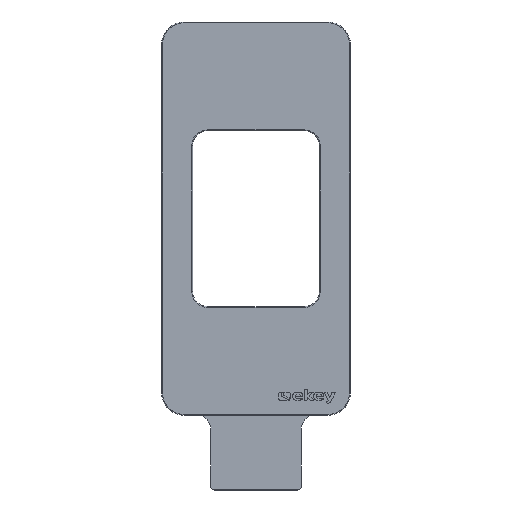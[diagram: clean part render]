
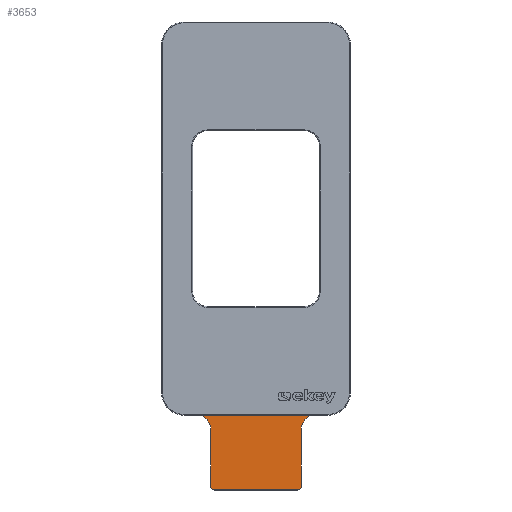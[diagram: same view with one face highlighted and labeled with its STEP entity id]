
A CAD part, top view. The second image highlights one B-rep face of the part: STEP entity #3653.
In plain terms, the highlighted planar face has unit normal (0, 0, 1).
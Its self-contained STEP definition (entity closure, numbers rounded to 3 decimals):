
#291=CIRCLE('',#3840,2.1);
#292=CIRCLE('',#3841,2.1);
#293=CIRCLE('',#3842,2.1);
#294=CIRCLE('',#3843,2.1);
#295=CIRCLE('',#3844,0.5);
#296=CIRCLE('',#3845,2.);
#297=CIRCLE('',#3846,3.);
#298=CIRCLE('',#3847,3.);
#299=CIRCLE('',#3848,3.);
#300=CIRCLE('',#3849,3.);
#301=CIRCLE('',#3850,2.);
#302=CIRCLE('',#3851,0.5);
#1023=ORIENTED_EDGE('',*,*,#1511,.F.);
#1024=ORIENTED_EDGE('',*,*,#1512,.T.);
#1025=ORIENTED_EDGE('',*,*,#1513,.F.);
#1026=ORIENTED_EDGE('',*,*,#1514,.T.);
#1027=ORIENTED_EDGE('',*,*,#1515,.F.);
#1028=ORIENTED_EDGE('',*,*,#1516,.T.);
#1029=ORIENTED_EDGE('',*,*,#1517,.F.);
#1030=ORIENTED_EDGE('',*,*,#1518,.T.);
#1031=ORIENTED_EDGE('',*,*,#1519,.T.);
#1032=ORIENTED_EDGE('',*,*,#1520,.T.);
#1033=ORIENTED_EDGE('',*,*,#1521,.T.);
#1034=ORIENTED_EDGE('',*,*,#1522,.T.);
#1035=ORIENTED_EDGE('',*,*,#1491,.T.);
#1036=ORIENTED_EDGE('',*,*,#1523,.T.);
#1037=ORIENTED_EDGE('',*,*,#1503,.T.);
#1038=ORIENTED_EDGE('',*,*,#1524,.T.);
#1039=ORIENTED_EDGE('',*,*,#1509,.T.);
#1040=ORIENTED_EDGE('',*,*,#1525,.T.);
#1041=ORIENTED_EDGE('',*,*,#1499,.T.);
#1042=ORIENTED_EDGE('',*,*,#1526,.T.);
#1043=ORIENTED_EDGE('',*,*,#1497,.T.);
#1044=ORIENTED_EDGE('',*,*,#1527,.T.);
#1045=ORIENTED_EDGE('',*,*,#1528,.T.);
#1046=ORIENTED_EDGE('',*,*,#1529,.T.);
#1491=EDGE_CURVE('',#1787,#1788,#2013,.T.);
#1497=EDGE_CURVE('',#1794,#1793,#2019,.T.);
#1499=EDGE_CURVE('',#1795,#1796,#2021,.T.);
#1503=EDGE_CURVE('',#1799,#1800,#2025,.T.);
#1509=EDGE_CURVE('',#1806,#1805,#2031,.T.);
#1511=EDGE_CURVE('',#1807,#1808,#2033,.T.);
#1512=EDGE_CURVE('',#1807,#1809,#291,.F.);
#1513=EDGE_CURVE('',#1810,#1809,#2034,.T.);
#1514=EDGE_CURVE('',#1810,#1811,#292,.F.);
#1515=EDGE_CURVE('',#1812,#1811,#2035,.T.);
#1516=EDGE_CURVE('',#1812,#1813,#293,.F.);
#1517=EDGE_CURVE('',#1814,#1813,#2036,.T.);
#1518=EDGE_CURVE('',#1814,#1808,#294,.F.);
#1519=EDGE_CURVE('',#1815,#1816,#2037,.T.);
#1520=EDGE_CURVE('',#1816,#1817,#295,.T.);
#1521=EDGE_CURVE('',#1817,#1818,#2038,.T.);
#1522=EDGE_CURVE('',#1818,#1787,#296,.F.);
#1523=EDGE_CURVE('',#1788,#1799,#297,.T.);
#1524=EDGE_CURVE('',#1800,#1806,#298,.T.);
#1525=EDGE_CURVE('',#1805,#1795,#299,.T.);
#1526=EDGE_CURVE('',#1796,#1794,#300,.T.);
#1527=EDGE_CURVE('',#1793,#1819,#301,.F.);
#1528=EDGE_CURVE('',#1819,#1820,#2039,.T.);
#1529=EDGE_CURVE('',#1820,#1815,#302,.T.);
#1787=VERTEX_POINT('',#6141);
#1788=VERTEX_POINT('',#6142);
#1793=VERTEX_POINT('',#6153);
#1794=VERTEX_POINT('',#6155);
#1795=VERTEX_POINT('',#6159);
#1796=VERTEX_POINT('',#6160);
#1799=VERTEX_POINT('',#6168);
#1800=VERTEX_POINT('',#6169);
#1805=VERTEX_POINT('',#6180);
#1806=VERTEX_POINT('',#6182);
#1807=VERTEX_POINT('',#6186);
#1808=VERTEX_POINT('',#6187);
#1809=VERTEX_POINT('',#6189);
#1810=VERTEX_POINT('',#6191);
#1811=VERTEX_POINT('',#6193);
#1812=VERTEX_POINT('',#6195);
#1813=VERTEX_POINT('',#6197);
#1814=VERTEX_POINT('',#6199);
#1815=VERTEX_POINT('',#6202);
#1816=VERTEX_POINT('',#6203);
#1817=VERTEX_POINT('',#6205);
#1818=VERTEX_POINT('',#6207);
#1819=VERTEX_POINT('',#6214);
#1820=VERTEX_POINT('',#6216);
#2013=LINE('',#6140,#2239);
#2019=LINE('',#6154,#2245);
#2021=LINE('',#6158,#2247);
#2025=LINE('',#6167,#2251);
#2031=LINE('',#6181,#2257);
#2033=LINE('',#6185,#2259);
#2034=LINE('',#6190,#2260);
#2035=LINE('',#6194,#2261);
#2036=LINE('',#6198,#2262);
#2037=LINE('',#6201,#2263);
#2038=LINE('',#6206,#2264);
#2039=LINE('',#6215,#2265);
#2239=VECTOR('',#4357,1000.);
#2245=VECTOR('',#4365,1000.);
#2247=VECTOR('',#4369,1000.);
#2251=VECTOR('',#4375,1000.);
#2257=VECTOR('',#4383,1000.);
#2259=VECTOR('',#4387,1000.);
#2260=VECTOR('',#4390,1000.);
#2261=VECTOR('',#4393,1000.);
#2262=VECTOR('',#4396,1000.);
#2263=VECTOR('',#4399,1000.);
#2264=VECTOR('',#4402,1000.);
#2265=VECTOR('',#4415,1000.);
#2436=EDGE_LOOP('',(#1023,#1024,#1025,#1026,#1027,#1028,#1029,#1030));
#2437=EDGE_LOOP('',(#1031,#1032,#1033,#1034,#1035,#1036,#1037,#1038,#1039,
#1040,#1041,#1042,#1043,#1044,#1045,#1046));
#2608=FACE_BOUND('',#2436,.T.);
#2609=FACE_BOUND('',#2437,.T.);
#2691=PLANE('',#3839);
#3653=ADVANCED_FACE('',(#2608,#2609),#2691,.T.);
#3839=AXIS2_PLACEMENT_3D('',#6184,#4385,#4386);
#3840=AXIS2_PLACEMENT_3D('',#6188,#4388,#4389);
#3841=AXIS2_PLACEMENT_3D('',#6192,#4391,#4392);
#3842=AXIS2_PLACEMENT_3D('',#6196,#4394,#4395);
#3843=AXIS2_PLACEMENT_3D('',#6200,#4397,#4398);
#3844=AXIS2_PLACEMENT_3D('',#6204,#4400,#4401);
#3845=AXIS2_PLACEMENT_3D('',#6208,#4403,#4404);
#3846=AXIS2_PLACEMENT_3D('',#6209,#4405,#4406);
#3847=AXIS2_PLACEMENT_3D('',#6210,#4407,#4408);
#3848=AXIS2_PLACEMENT_3D('',#6211,#4409,#4410);
#3849=AXIS2_PLACEMENT_3D('',#6212,#4411,#4412);
#3850=AXIS2_PLACEMENT_3D('',#6213,#4413,#4414);
#3851=AXIS2_PLACEMENT_3D('',#6217,#4416,#4417);
#4357=DIRECTION('',(1.,0.,0.));
#4365=DIRECTION('',(1.,0.,0.));
#4369=DIRECTION('',(0.,-1.,0.));
#4375=DIRECTION('',(0.,1.,0.));
#4383=DIRECTION('',(-1.,0.,0.));
#4385=DIRECTION('',(0.,0.,1.));
#4386=DIRECTION('',(1.,0.,0.));
#4387=DIRECTION('',(0.,1.,0.));
#4388=DIRECTION('',(0.,0.,1.));
#4389=DIRECTION('',(1.,0.,0.));
#4390=DIRECTION('',(1.,0.,0.));
#4391=DIRECTION('',(0.,0.,1.));
#4392=DIRECTION('',(1.,0.,0.));
#4393=DIRECTION('',(0.,-1.,0.));
#4394=DIRECTION('',(0.,0.,1.));
#4395=DIRECTION('',(1.,0.,0.));
#4396=DIRECTION('',(-1.,0.,0.));
#4397=DIRECTION('',(0.,0.,1.));
#4398=DIRECTION('',(1.,0.,0.));
#4399=DIRECTION('',(1.,0.,0.));
#4400=DIRECTION('',(0.,0.,1.));
#4401=DIRECTION('',(1.,0.,0.));
#4402=DIRECTION('',(0.,1.,0.));
#4403=DIRECTION('',(0.,0.,1.));
#4404=DIRECTION('',(1.,0.,0.));
#4405=DIRECTION('',(0.,0.,1.));
#4406=DIRECTION('',(1.,0.,0.));
#4407=DIRECTION('',(0.,0.,1.));
#4408=DIRECTION('',(1.,0.,0.));
#4409=DIRECTION('',(0.,0.,1.));
#4410=DIRECTION('',(1.,0.,0.));
#4411=DIRECTION('',(0.,0.,1.));
#4412=DIRECTION('',(1.,0.,0.));
#4413=DIRECTION('',(0.,0.,1.));
#4414=DIRECTION('',(1.,0.,0.));
#4415=DIRECTION('',(0.,-1.,0.));
#4416=DIRECTION('',(0.,0.,1.));
#4417=DIRECTION('',(1.,0.,0.));
#6140=CARTESIAN_POINT('',(-12.4,-25.95,0.06));
#6141=CARTESIAN_POINT('',(8.,-25.95,0.06));
#6142=CARTESIAN_POINT('',(9.4,-25.95,0.06));
#6153=CARTESIAN_POINT('',(-8.,-25.95,0.06));
#6154=CARTESIAN_POINT('',(-12.4,-25.95,0.06));
#6155=CARTESIAN_POINT('',(-9.4,-25.95,0.06));
#6158=CARTESIAN_POINT('',(-12.4,25.95,0.06));
#6159=CARTESIAN_POINT('',(-12.4,22.95,0.06));
#6160=CARTESIAN_POINT('',(-12.4,-22.95,0.06));
#6167=CARTESIAN_POINT('',(12.4,-25.95,0.06));
#6168=CARTESIAN_POINT('',(12.4,-22.95,0.06));
#6169=CARTESIAN_POINT('',(12.4,22.95,0.06));
#6180=CARTESIAN_POINT('',(-9.4,25.95,0.06));
#6181=CARTESIAN_POINT('',(12.4,25.95,0.06));
#6182=CARTESIAN_POINT('',(9.4,25.95,0.06));
#6184=CARTESIAN_POINT('',(0.,0.,0.06));
#6185=CARTESIAN_POINT('',(8.6,0.,0.06));
#6186=CARTESIAN_POINT('',(8.6,-9.75,0.06));
#6187=CARTESIAN_POINT('',(8.6,9.75,0.06));
#6188=CARTESIAN_POINT('',(6.5,-9.75,0.06));
#6189=CARTESIAN_POINT('',(6.5,-11.85,0.06));
#6190=CARTESIAN_POINT('',(0.,-11.85,0.06));
#6191=CARTESIAN_POINT('',(-6.5,-11.85,0.06));
#6192=CARTESIAN_POINT('',(-6.5,-9.75,0.06));
#6193=CARTESIAN_POINT('',(-8.6,-9.75,0.06));
#6194=CARTESIAN_POINT('',(-8.6,0.,0.06));
#6195=CARTESIAN_POINT('',(-8.6,9.75,0.06));
#6196=CARTESIAN_POINT('',(-6.5,9.75,0.06));
#6197=CARTESIAN_POINT('',(-6.5,11.85,0.06));
#6198=CARTESIAN_POINT('',(0.,11.85,0.06));
#6199=CARTESIAN_POINT('',(6.5,11.85,0.06));
#6200=CARTESIAN_POINT('',(6.5,9.75,0.06));
#6201=CARTESIAN_POINT('',(-6.,-35.95,0.06));
#6202=CARTESIAN_POINT('',(-5.5,-35.95,0.06));
#6203=CARTESIAN_POINT('',(5.5,-35.95,0.06));
#6204=CARTESIAN_POINT('',(5.5,-35.45,0.06));
#6205=CARTESIAN_POINT('',(6.,-35.45,0.06));
#6206=CARTESIAN_POINT('',(6.,-35.95,0.06));
#6207=CARTESIAN_POINT('',(6.,-27.95,0.06));
#6208=CARTESIAN_POINT('',(8.,-27.95,0.06));
#6209=CARTESIAN_POINT('',(9.4,-22.95,0.06));
#6210=CARTESIAN_POINT('',(9.4,22.95,0.06));
#6211=CARTESIAN_POINT('',(-9.4,22.95,0.06));
#6212=CARTESIAN_POINT('',(-9.4,-22.95,0.06));
#6213=CARTESIAN_POINT('',(-8.,-27.95,0.06));
#6214=CARTESIAN_POINT('',(-6.,-27.95,0.06));
#6215=CARTESIAN_POINT('',(-6.,-25.95,0.06));
#6216=CARTESIAN_POINT('',(-6.,-35.45,0.06));
#6217=CARTESIAN_POINT('',(-5.5,-35.45,0.06));
